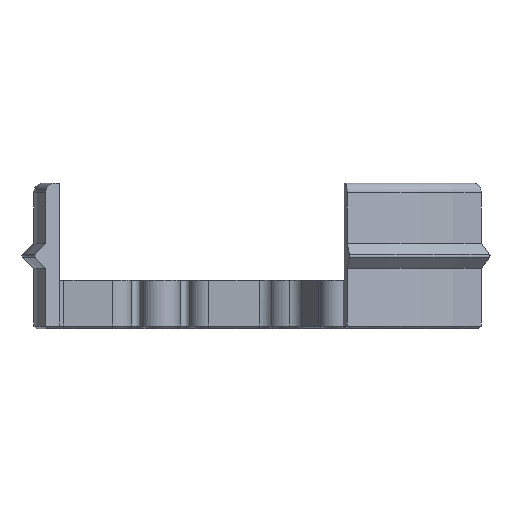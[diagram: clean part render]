
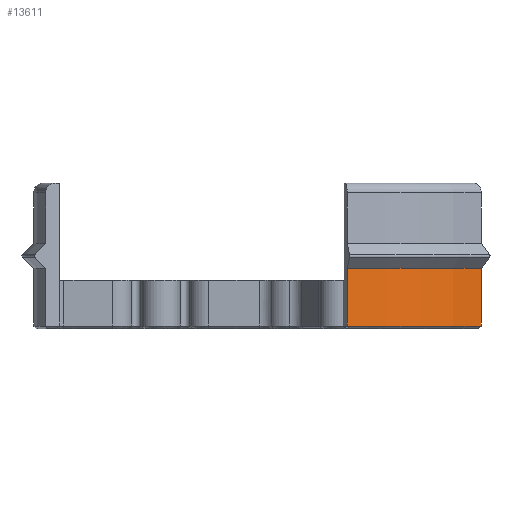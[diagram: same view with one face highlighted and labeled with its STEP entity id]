
A CAD part, left-side view. The second image highlights one B-rep face of the part: STEP entity #13611.
In plain terms, the highlighted cylindrical face has radius 26.5 mm (diameter 53 mm), a partial arc.
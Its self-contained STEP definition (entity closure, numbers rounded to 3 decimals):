
#4391 = CONICAL_SURFACE('',#4392,26.5,0.785);
#4392 = AXIS2_PLACEMENT_3D('',#4393,#4394,#4395);
#4393 = CARTESIAN_POINT('',(0.,0.,0.3)
  );
#4394 = DIRECTION('',(0.,0.,1.));
#4395 = DIRECTION('',(-0.976,-0.216,0.
    ));
#9727 = VERTEX_POINT('',#9728);
#9728 = CARTESIAN_POINT('',(-25.872,-5.736,0.3));
#9770 = PLANE('',#9771);
#9771 = AXIS2_PLACEMENT_3D('',#9772,#9773,#9774);
#9772 = CARTESIAN_POINT('',(-25.872,-5.736,
    6.217));
#9773 = DIRECTION('',(-0.216,0.976,0.)
  );
#9774 = DIRECTION('',(0.,0.,1.));
#9788 = VERTEX_POINT('',#9789);
#9789 = CARTESIAN_POINT('',(-17.903,-19.538,0.3));
#9831 = PLANE('',#9832);
#9832 = AXIS2_PLACEMENT_3D('',#9833,#9834,#9835);
#9833 = CARTESIAN_POINT('',(-17.903,-19.538,
    6.217));
#9834 = DIRECTION('',(-0.737,0.676,0.)
  );
#9835 = DIRECTION('',(0.,0.,1.));
#9849 = EDGE_CURVE('',#9727,#9788,#9850,.T.);
#9850 = SURFACE_CURVE('',#9851,(#9856,#9863),.PCURVE_S1.);
#9851 = CIRCLE('',#9852,26.5);
#9852 = AXIS2_PLACEMENT_3D('',#9853,#9854,#9855);
#9853 = CARTESIAN_POINT('',(0.,0.,0.3)
  );
#9854 = DIRECTION('',(0.,0.,1.));
#9855 = DIRECTION('',(-0.976,-0.216,0.
    ));
#9856 = PCURVE('',#4391,#9857);
#9857 = DEFINITIONAL_REPRESENTATION('',(#9858),#9862);
#9858 = LINE('',#9859,#9860);
#9859 = CARTESIAN_POINT('',(0.,0.));
#9860 = VECTOR('',#9861,1.);
#9861 = DIRECTION('',(1.,0.));
#9862 = ( GEOMETRIC_REPRESENTATION_CONTEXT(2) 
PARAMETRIC_REPRESENTATION_CONTEXT() REPRESENTATION_CONTEXT('2D SPACE',''
  ) );
#9863 = PCURVE('',#9864,#9869);
#9864 = CYLINDRICAL_SURFACE('',#9865,26.5);
#9865 = AXIS2_PLACEMENT_3D('',#9866,#9867,#9868);
#9866 = CARTESIAN_POINT('',(0.,0.,
    0.));
#9867 = DIRECTION('',(0.,0.,1.));
#9868 = DIRECTION('',(-0.976,-0.216,0.
    ));
#9869 = DEFINITIONAL_REPRESENTATION('',(#9870),#9874);
#9870 = LINE('',#9871,#9872);
#9871 = CARTESIAN_POINT('',(0.,0.3));
#9872 = VECTOR('',#9873,1.);
#9873 = DIRECTION('',(1.,0.));
#9874 = ( GEOMETRIC_REPRESENTATION_CONTEXT(2) 
PARAMETRIC_REPRESENTATION_CONTEXT() REPRESENTATION_CONTEXT('2D SPACE',''
  ) );
#13262 = EDGE_CURVE('',#9727,#13263,#13265,.T.);
#13263 = VERTEX_POINT('',#13264);
#13264 = CARTESIAN_POINT('',(-25.872,-5.736,
    6.217));
#13265 = SURFACE_CURVE('',#13266,(#13270,#13277),.PCURVE_S1.);
#13266 = LINE('',#13267,#13268);
#13267 = CARTESIAN_POINT('',(-25.872,-5.736,
    0.));
#13268 = VECTOR('',#13269,1.);
#13269 = DIRECTION('',(0.,0.,1.));
#13270 = PCURVE('',#9770,#13271);
#13271 = DEFINITIONAL_REPRESENTATION('',(#13272),#13276);
#13272 = LINE('',#13273,#13274);
#13273 = CARTESIAN_POINT('',(-6.217,0.));
#13274 = VECTOR('',#13275,1.);
#13275 = DIRECTION('',(1.,0.));
#13276 = ( GEOMETRIC_REPRESENTATION_CONTEXT(2) 
PARAMETRIC_REPRESENTATION_CONTEXT() REPRESENTATION_CONTEXT('2D SPACE',''
  ) );
#13277 = PCURVE('',#9864,#13278);
#13278 = DEFINITIONAL_REPRESENTATION('',(#13279),#13283);
#13279 = LINE('',#13280,#13281);
#13280 = CARTESIAN_POINT('',(0.,0.));
#13281 = VECTOR('',#13282,1.);
#13282 = DIRECTION('',(0.,1.));
#13283 = ( GEOMETRIC_REPRESENTATION_CONTEXT(2) 
PARAMETRIC_REPRESENTATION_CONTEXT() REPRESENTATION_CONTEXT('2D SPACE',''
  ) );
#13301 = CONICAL_SURFACE('',#13302,26.5,0.785);
#13302 = AXIS2_PLACEMENT_3D('',#13303,#13304,#13305);
#13303 = CARTESIAN_POINT('',(0.,0.,
    6.217));
#13304 = DIRECTION('',(0.,0.,1.));
#13305 = DIRECTION('',(-0.976,-0.216,
    0.));
#13452 = EDGE_CURVE('',#9788,#13453,#13455,.T.);
#13453 = VERTEX_POINT('',#13454);
#13454 = CARTESIAN_POINT('',(-17.903,-19.538,
    6.217));
#13455 = SURFACE_CURVE('',#13456,(#13460,#13467),.PCURVE_S1.);
#13456 = LINE('',#13457,#13458);
#13457 = CARTESIAN_POINT('',(-17.903,-19.538,
    0.));
#13458 = VECTOR('',#13459,1.);
#13459 = DIRECTION('',(0.,0.,1.));
#13460 = PCURVE('',#9831,#13461);
#13461 = DEFINITIONAL_REPRESENTATION('',(#13462),#13466);
#13462 = LINE('',#13463,#13464);
#13463 = CARTESIAN_POINT('',(-6.217,0.));
#13464 = VECTOR('',#13465,1.);
#13465 = DIRECTION('',(1.,0.));
#13466 = ( GEOMETRIC_REPRESENTATION_CONTEXT(2) 
PARAMETRIC_REPRESENTATION_CONTEXT() REPRESENTATION_CONTEXT('2D SPACE',''
  ) );
#13467 = PCURVE('',#9864,#13468);
#13468 = DEFINITIONAL_REPRESENTATION('',(#13469),#13473);
#13469 = LINE('',#13470,#13471);
#13470 = CARTESIAN_POINT('',(0.611,0.));
#13471 = VECTOR('',#13472,1.);
#13472 = DIRECTION('',(0.,1.));
#13473 = ( GEOMETRIC_REPRESENTATION_CONTEXT(2) 
PARAMETRIC_REPRESENTATION_CONTEXT() REPRESENTATION_CONTEXT('2D SPACE',''
  ) );
#13611 = ADVANCED_FACE('',(#13612),#9864,.T.);
#13612 = FACE_BOUND('',#13613,.T.);
#13613 = EDGE_LOOP('',(#13614,#13615,#13616,#13617));
#13614 = ORIENTED_EDGE('',*,*,#13262,.F.);
#13615 = ORIENTED_EDGE('',*,*,#9849,.T.);
#13616 = ORIENTED_EDGE('',*,*,#13452,.T.);
#13617 = ORIENTED_EDGE('',*,*,#13618,.F.);
#13618 = EDGE_CURVE('',#13263,#13453,#13619,.T.);
#13619 = SURFACE_CURVE('',#13620,(#13625,#13632),.PCURVE_S1.);
#13620 = CIRCLE('',#13621,26.5);
#13621 = AXIS2_PLACEMENT_3D('',#13622,#13623,#13624);
#13622 = CARTESIAN_POINT('',(0.,0.,
    6.217));
#13623 = DIRECTION('',(0.,0.,1.));
#13624 = DIRECTION('',(-0.976,-0.216,
    0.));
#13625 = PCURVE('',#9864,#13626);
#13626 = DEFINITIONAL_REPRESENTATION('',(#13627),#13631);
#13627 = LINE('',#13628,#13629);
#13628 = CARTESIAN_POINT('',(0.,6.217));
#13629 = VECTOR('',#13630,1.);
#13630 = DIRECTION('',(1.,0.));
#13631 = ( GEOMETRIC_REPRESENTATION_CONTEXT(2) 
PARAMETRIC_REPRESENTATION_CONTEXT() REPRESENTATION_CONTEXT('2D SPACE',''
  ) );
#13632 = PCURVE('',#13301,#13633);
#13633 = DEFINITIONAL_REPRESENTATION('',(#13634),#13638);
#13634 = LINE('',#13635,#13636);
#13635 = CARTESIAN_POINT('',(0.,0.));
#13636 = VECTOR('',#13637,1.);
#13637 = DIRECTION('',(1.,0.));
#13638 = ( GEOMETRIC_REPRESENTATION_CONTEXT(2) 
PARAMETRIC_REPRESENTATION_CONTEXT() REPRESENTATION_CONTEXT('2D SPACE',''
  ) );
